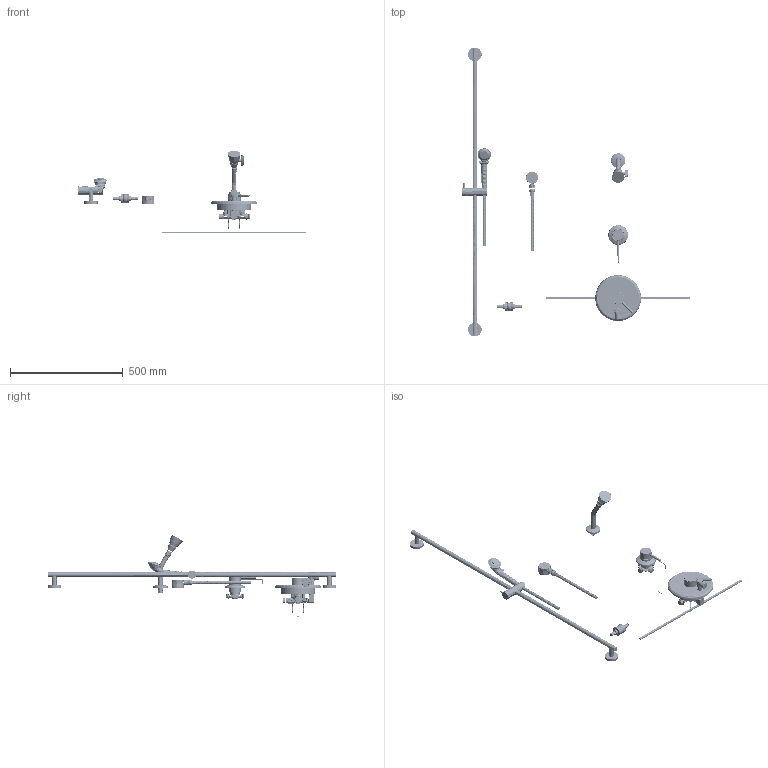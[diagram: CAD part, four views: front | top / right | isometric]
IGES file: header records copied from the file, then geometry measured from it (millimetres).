
Start section:  PTC IGES file: sh-pb4-37-042_REV030624.igs
Global section: file name: sh-pb4-37-042_REV030624.igs; native system: Creo Parametric by PTC Inc.; preprocessor: 2021184; author: rodjo; organization: Unknown; date: 20240306.152823; units: inch
Bounding box: 1008.5 x 1279.53 x 366.03 mm (x, y, z)
Surface area: 533365.7 mm2 (no closed solid volume)
Topology: 0 solids, 0 shells, 1569 faces, 15071 edges, 20888 vertices
Faces by surface type: revolution 1022, bspline 547
